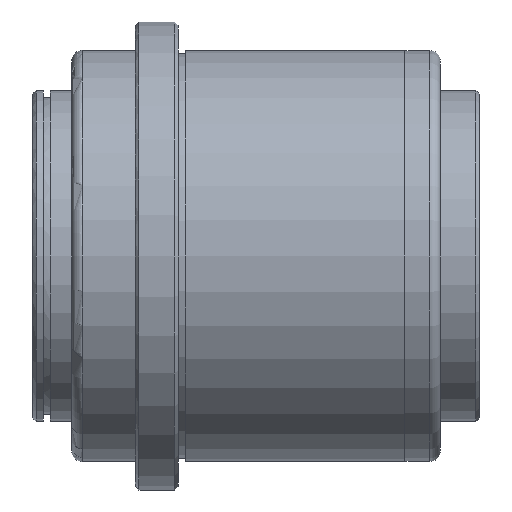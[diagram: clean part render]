
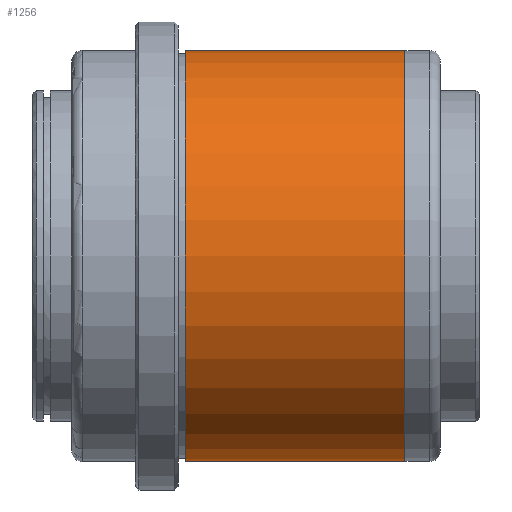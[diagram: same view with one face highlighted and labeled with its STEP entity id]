
A CAD part, front view. The second image highlights one B-rep face of the part: STEP entity #1256.
In plain terms, the highlighted cylindrical face has radius 29 mm (diameter 58 mm), a partial arc.
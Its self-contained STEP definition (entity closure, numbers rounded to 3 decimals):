
#1090=CARTESIAN_POINT('Vertex',(47.,0.,29.)) ;
#1093=CARTESIAN_POINT('Axis2P3D Location',(47.,0.,0.)) ;
#1097=CARTESIAN_POINT('Vertex',(47.,-29.,0.)) ;
#1100=CARTESIAN_POINT('Axis2P3D Location',(47.,0.,0.)) ;
#1104=CARTESIAN_POINT('Vertex',(47.,0.,-29.)) ;
#1196=CARTESIAN_POINT('Line Origine',(52.,0.,29.)) ;
#1200=CARTESIAN_POINT('Vertex',(16.,0.,29.)) ;
#1203=CARTESIAN_POINT('Line Origine',(52.,0.,-29.)) ;
#1207=CARTESIAN_POINT('Vertex',(16.,0.,-29.)) ;
#1231=CARTESIAN_POINT('Axis2P3D Location',(52.,0.,0.)) ;
#1236=CARTESIAN_POINT('Axis2P3D Location',(16.,0.,0.)) ;
#1240=CARTESIAN_POINT('Vertex',(16.,-29.,0.)) ;
#1243=CARTESIAN_POINT('Axis2P3D Location',(16.,0.,0.)) ;
#1094=DIRECTION('Axis2P3D Direction',(1.,0.,-0.)) ;
#1101=DIRECTION('Axis2P3D Direction',(1.,0.,-0.)) ;
#1197=DIRECTION('Vector Direction',(-1.,0.,0.)) ;
#1204=DIRECTION('Vector Direction',(-1.,0.,0.)) ;
#1232=DIRECTION('Axis2P3D Direction',(-1.,-0.,-0.)) ;
#1233=DIRECTION('Axis2P3D XDirection',(0.,0.,-1.)) ;
#1237=DIRECTION('Axis2P3D Direction',(-1.,-0.,-0.)) ;
#1244=DIRECTION('Axis2P3D Direction',(-1.,-0.,-0.)) ;
#1095=AXIS2_PLACEMENT_3D('Circle Axis2P3D',#1093,#1094,$) ;
#1102=AXIS2_PLACEMENT_3D('Circle Axis2P3D',#1100,#1101,$) ;
#1234=AXIS2_PLACEMENT_3D('Cylinder Axis2P3D',#1231,#1232,#1233) ;
#1238=AXIS2_PLACEMENT_3D('Circle Axis2P3D',#1236,#1237,$) ;
#1245=AXIS2_PLACEMENT_3D('Circle Axis2P3D',#1243,#1244,$) ;
#1249=ORIENTED_EDGE('',*,*,#1209,.T.) ;
#1250=ORIENTED_EDGE('',*,*,#1106,.F.) ;
#1251=ORIENTED_EDGE('',*,*,#1099,.F.) ;
#1252=ORIENTED_EDGE('',*,*,#1202,.T.) ;
#1253=ORIENTED_EDGE('',*,*,#1242,.T.) ;
#1254=ORIENTED_EDGE('',*,*,#1247,.T.) ;
#1198=VECTOR('Line Direction',#1197,1.) ;
#1205=VECTOR('Line Direction',#1204,1.) ;
#1256=ADVANCED_FACE('732-40',(#1255),#1235,.T.) ;
#1096=CIRCLE('generated circle',#1095,29.) ;
#1103=CIRCLE('generated circle',#1102,29.) ;
#1239=CIRCLE('generated circle',#1238,29.) ;
#1246=CIRCLE('generated circle',#1245,29.) ;
#1235=CYLINDRICAL_SURFACE('generated cylinder',#1234,29.) ;
#1099=EDGE_CURVE('',#1091,#1098,#1096,.T.) ;
#1106=EDGE_CURVE('',#1098,#1105,#1103,.T.) ;
#1202=EDGE_CURVE('',#1091,#1201,#1199,.T.) ;
#1209=EDGE_CURVE('',#1208,#1105,#1206,.F.) ;
#1242=EDGE_CURVE('',#1201,#1241,#1239,.F.) ;
#1247=EDGE_CURVE('',#1241,#1208,#1246,.F.) ;
#1248=EDGE_LOOP('',(#1249,#1250,#1251,#1252,#1253,#1254)) ;
#1255=FACE_OUTER_BOUND('',#1248,.T.) ;
#1199=LINE('Line',#1196,#1198) ;
#1206=LINE('Line',#1203,#1205) ;
#1091=VERTEX_POINT('',#1090) ;
#1098=VERTEX_POINT('',#1097) ;
#1105=VERTEX_POINT('',#1104) ;
#1201=VERTEX_POINT('',#1200) ;
#1208=VERTEX_POINT('',#1207) ;
#1241=VERTEX_POINT('',#1240) ;
